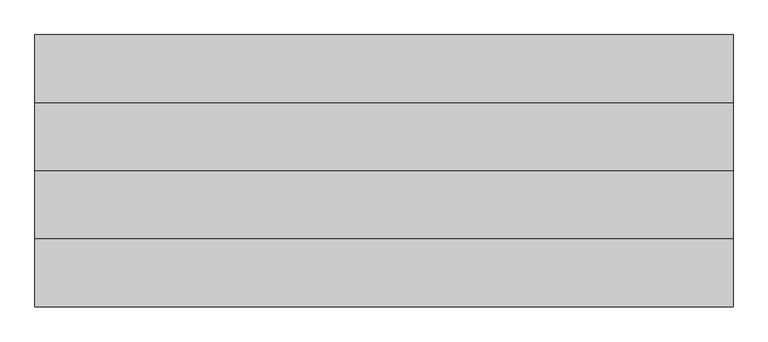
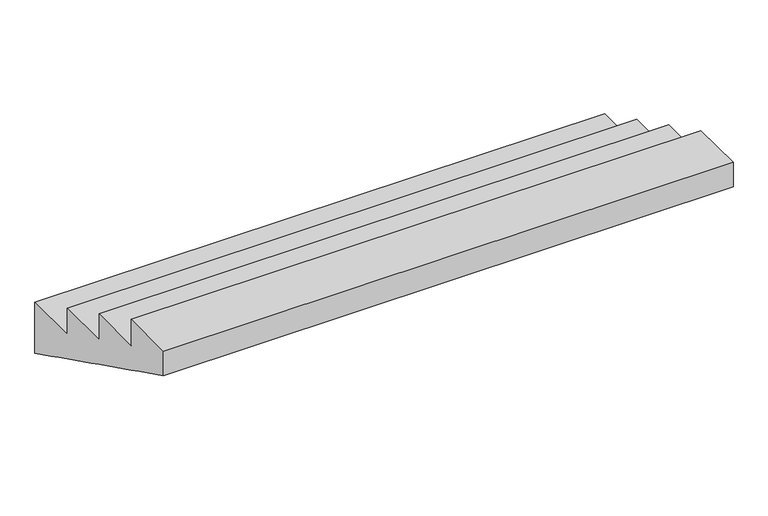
"""IFC4 building model written with IfcOpenShell, lengths in millimetres: stair geometry, SF STRUCTURE - 107 701 : SF STRUCTURE - 107 701."""

from ifc_helpers import new_model, si_unit, frame, origin, place, context, project, spatial, polyline, outline, extrude, source, transform, mapped, element, save


def stair_9156229e(model_context):
    return source(origin(), model_context, "Body", "SweptSolid", [
        extrude(outline(polyline([(19093.2371609, 429.5096834), (19017.0371609, 467.6096834), (19017.0371609, 609.6), (19321.8371608, 609.6), (19321.8371608, 457.2), (19626.6371607, 457.2), (19626.6371607, 304.8), (19931.4371606, 304.8), (19931.4371606, 152.4), (20236.2371604, 152.4), (20236.2371604, -141.9903166), (20160.0371605, -103.8903166), (20083.8371605, -65.7903166), (20007.6371605, -27.6903166), (19931.4371606, 10.4096834), (19855.2371606, 48.5096834), (19779.0371606, 86.6096834), (19702.8371606, 124.7096834), (19626.6371607, 162.8096834), (19550.4371607, 200.9096834), (19474.2371607, 239.0096834), (19398.0371608, 277.1096834), (19321.8371608, 315.2096834), (19245.6371608, 353.3096834), (19169.4371609, 391.4096834), (19093.2371609, 429.5096834)])), frame((13466.6203098, 0.0, 0.0), z_axis=(1.0, 0.0, 0.0), x_axis=(0.0, 1.0, 0.0)), (0.0, 0.0, 1.0), 3123.0392112),
    ])


if __name__ == "__main__":
    model = new_model("IFC4")
    model_context = context("Model", 3, world=origin())
    ifc_project = project(units=[si_unit("LENGTHUNIT", "METRE", prefix="MILLI")], contexts=[model_context])
    site = spatial("IfcSite", under=ifc_project)
    building = spatial("IfcBuilding", under=site)
    placement = place(None, origin())
    stair_shape = stair_9156229e(model_context)
    element("IfcStair", 1, ObjectType="SF STRUCTURE - 107 701 : SF STRUCTURE - 107 701", at=placement, inside=building, context=model_context, shape_type="MappedRepresentation", body=[
        mapped(stair_shape, transform((0.0, 0.0, 0.0), x_axis=(1.0, 0.0, 0.0), y_axis=(0.0, 1.0, 0.0), z_axis=(0.0, 0.0, 1.0))),
    ])
    save(model, "model.ifc")
